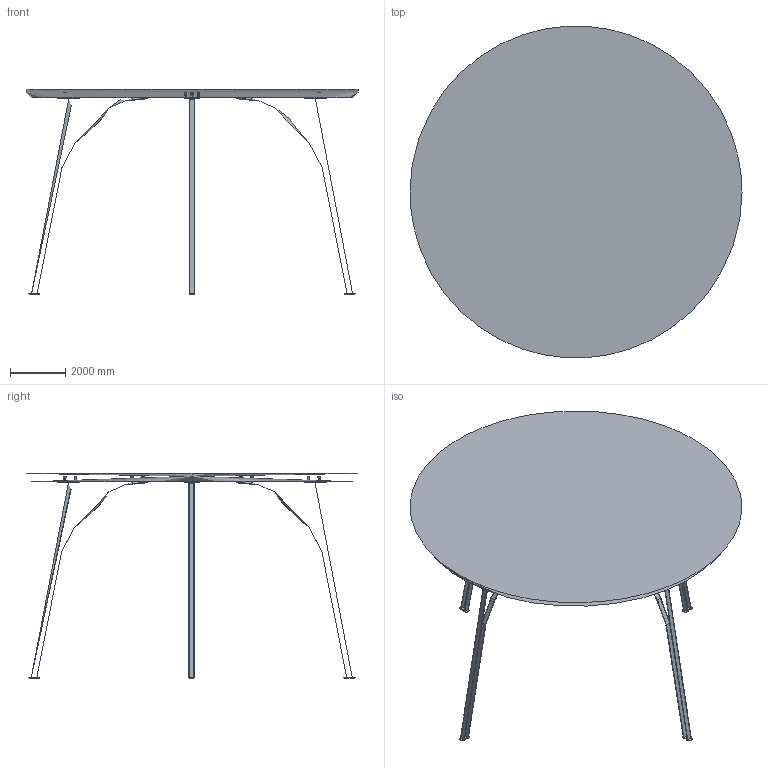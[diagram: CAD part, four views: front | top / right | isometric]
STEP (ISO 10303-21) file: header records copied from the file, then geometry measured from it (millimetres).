
FILE_DESCRIPTION(/* description */ (''),/* implementation_level */ '2;1');
FILE_NAME(/* name */ 'Tree Dining table (Ø120 cm)',/* time_stamp */ '2020-02-18T10:23:15+01:00',/* author */ (''),/* organization */ (''),/* preprocessor_version */ 'ST-DEVELOPER v15',/* originating_system */ '',/* authorisation */ '');
FILE_SCHEMA (('AUTOMOTIVE_DESIGN'));
Length unit declared in the file: millimetre
Products named in the file (1): Document
Bounding box: 12000 x 11978.23 x 7412.81 mm (x, y, z)
Volume: 33520346629.3 mm3; surface area: 310506043.9 mm2
Topology: 24 solids, 32 shells, 324 faces, 775 edges, 533 vertices
Faces by surface type: bspline 256, plane 68
Entity records: 39062 total; most frequent: CARTESIAN_POINT 34037, ORIENTED_EDGE 1380, EDGE_CURVE 710, VERTEX_POINT 462, EDGE_LOOP 430, ADVANCED_FACE 324, FACE_OUTER_BOUND 324, B_SPLINE_CURVE_WITH_KNOTS 255
